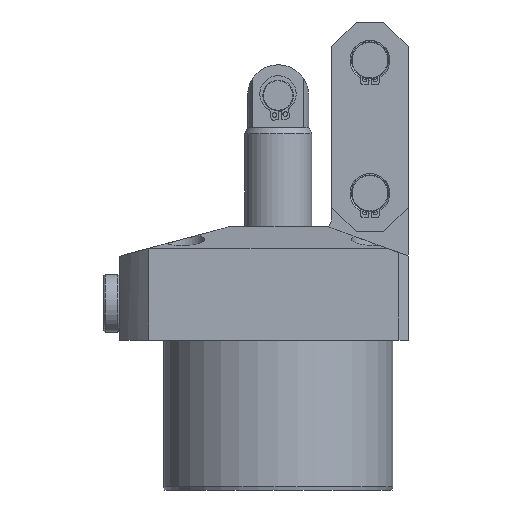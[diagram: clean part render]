
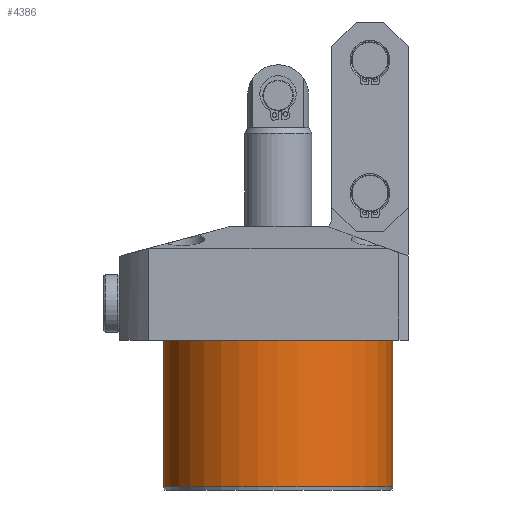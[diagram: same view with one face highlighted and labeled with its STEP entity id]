
A CAD part, front view. The second image highlights one B-rep face of the part: STEP entity #4386.
In plain terms, the highlighted cylindrical face has radius 37.5 mm (diameter 75 mm), a partial arc.
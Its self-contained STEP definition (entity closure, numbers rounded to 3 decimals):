
#1164 = CARTESIAN_POINT ( 'NONE',  ( 0., 0., -49. ) ) ;
#1826 = VERTEX_POINT ( 'NONE', #8522 ) ;
#1866 = CARTESIAN_POINT ( 'NONE',  ( 37.5, 0., -49. ) ) ;
#1950 = AXIS2_PLACEMENT_3D ( 'NONE', #1164, #16233, #8049 ) ;
#2083 = EDGE_CURVE ( 'NONE', #15589, #14309, #14105, .T. ) ;
#2577 = VECTOR ( 'NONE', #10119, 1000. ) ;
#3975 = FACE_OUTER_BOUND ( 'NONE', #12294, .T. ) ;
#4262 = CARTESIAN_POINT ( 'NONE',  ( -37.5, 0., -49. ) ) ;
#4386 = ADVANCED_FACE ( 'NONE', ( #3975 ), #6766, .T. ) ;
#4617 = EDGE_CURVE ( 'NONE', #1826, #14309, #15948, .T. ) ;
#5372 = DIRECTION ( 'NONE',  ( 1., 0., 0. ) ) ;
#5558 = DIRECTION ( 'NONE',  ( 0., 0., -1. ) ) ;
#5748 = CARTESIAN_POINT ( 'NONE',  ( 0., 0., 0. ) ) ;
#6766 = CYLINDRICAL_SURFACE ( 'NONE', #1950, 37.5 ) ;
#7156 = DIRECTION ( 'NONE',  ( 0., 0., 1. ) ) ;
#7369 = EDGE_CURVE ( 'NONE', #13857, #15589, #16761, .T. ) ;
#8049 = DIRECTION ( 'NONE',  ( 1., 0., 0. ) ) ;
#8068 = DIRECTION ( 'NONE',  ( 0., 0., 1. ) ) ;
#8269 = VECTOR ( 'NONE', #7156, 1000. ) ;
#8294 = AXIS2_PLACEMENT_3D ( 'NONE', #5748, #5558, #5372 ) ;
#8508 = CARTESIAN_POINT ( 'NONE',  ( 37.5, 0., -48. ) ) ;
#8522 = CARTESIAN_POINT ( 'NONE',  ( -37.5, 0., -48. ) ) ;
#8803 = ORIENTED_EDGE ( 'NONE', *, *, #9185, .T. ) ;
#9185 = EDGE_CURVE ( 'NONE', #1826, #13857, #9265, .T. ) ;
#9265 = CIRCLE ( 'NONE', #12355, 37.5 ) ;
#10119 = DIRECTION ( 'NONE',  ( 0., 0., 1. ) ) ;
#11682 = ORIENTED_EDGE ( 'NONE', *, *, #4617, .F. ) ;
#11931 = ORIENTED_EDGE ( 'NONE', *, *, #2083, .T. ) ;
#12294 = EDGE_LOOP ( 'NONE', ( #11682, #8803, #14002, #11931 ) ) ;
#12355 = AXIS2_PLACEMENT_3D ( 'NONE', #16249, #8068, #17609 ) ;
#13857 = VERTEX_POINT ( 'NONE', #8508 ) ;
#13928 = CARTESIAN_POINT ( 'NONE',  ( 37.5, 0., 0. ) ) ;
#14002 = ORIENTED_EDGE ( 'NONE', *, *, #7369, .T. ) ;
#14105 = CIRCLE ( 'NONE', #8294, 37.5 ) ;
#14309 = VERTEX_POINT ( 'NONE', #15306 ) ;
#15306 = CARTESIAN_POINT ( 'NONE',  ( -37.5, 0., 0. ) ) ;
#15589 = VERTEX_POINT ( 'NONE', #13928 ) ;
#15948 = LINE ( 'NONE', #4262, #8269 ) ;
#16233 = DIRECTION ( 'NONE',  ( 0., 0., 1. ) ) ;
#16249 = CARTESIAN_POINT ( 'NONE',  ( 0., 0., -48. ) ) ;
#16761 = LINE ( 'NONE', #1866, #2577 ) ;
#17609 = DIRECTION ( 'NONE',  ( -1., 0., 0. ) ) ;
